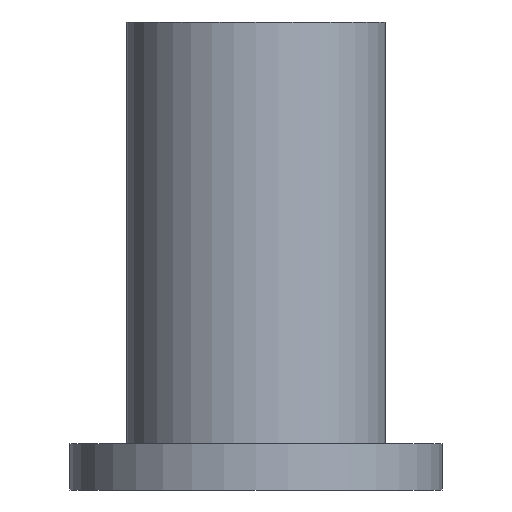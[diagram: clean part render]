
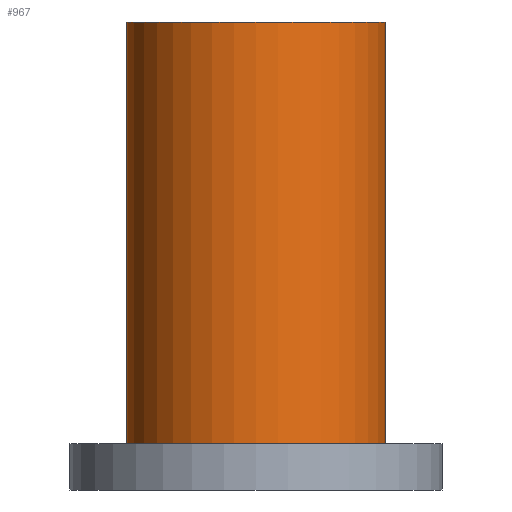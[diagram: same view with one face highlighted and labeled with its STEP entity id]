
A CAD part, front view. The second image highlights one B-rep face of the part: STEP entity #967.
In plain terms, the highlighted cylindrical face has radius 67.5 mm (diameter 135 mm), a partial arc.
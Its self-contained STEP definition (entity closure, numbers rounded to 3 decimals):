
#129=CARTESIAN_POINT('',(0.,0.,24.));
#130=DIRECTION('',(0.,0.,-1.));
#131=DIRECTION('',(1.,0.,0.));
#132=AXIS2_PLACEMENT_3D('',#129,#130,#131);
#297=DIRECTION('',(0.,0.,-1.));
#298=VECTOR('',#297,220.);
#299=CARTESIAN_POINT('',(-67.5,0.,244.));
#300=LINE('',#299,#298);
#301=DIRECTION('',(0.,0.,-1.));
#302=VECTOR('',#301,220.);
#303=CARTESIAN_POINT('',(67.5,0.,244.));
#304=LINE('',#303,#302);
#310=CARTESIAN_POINT('',(0.,0.,244.));
#311=DIRECTION('',(0.,0.,1.));
#312=DIRECTION('',(-1.,0.,0.));
#313=AXIS2_PLACEMENT_3D('',#310,#311,#312);
#589=CARTESIAN_POINT('',(67.5,0.,244.));
#590=CARTESIAN_POINT('',(67.5,0.,24.));
#591=VERTEX_POINT('',#589);
#592=VERTEX_POINT('',#590);
#593=CARTESIAN_POINT('',(-67.5,0.,244.));
#594=CARTESIAN_POINT('',(-67.5,0.,24.));
#595=VERTEX_POINT('',#593);
#596=VERTEX_POINT('',#594);
#953=CARTESIAN_POINT('',(0.,0.,244.));
#954=DIRECTION('',(0.,0.,-1.));
#955=DIRECTION('',(-1.,0.,0.));
#956=AXIS2_PLACEMENT_3D('',#953,#954,#955);
#957=CYLINDRICAL_SURFACE('',#956,67.5);
#958=ORIENTED_EDGE('',*,*,#694,.T.);
#960=ORIENTED_EDGE('',*,*,#959,.F.);
#962=ORIENTED_EDGE('',*,*,#961,.T.);
#964=ORIENTED_EDGE('',*,*,#963,.T.);
#965=EDGE_LOOP('',(#958,#960,#962,#964));
#966=FACE_OUTER_BOUND('',#965,.F.);
#967=ADVANCED_FACE('',(#966),#957,.T.);
#133=CIRCLE('',#132,67.5);
#314=CIRCLE('',#313,67.5);
#694=EDGE_CURVE('',#592,#596,#133,.T.);
#959=EDGE_CURVE('',#595,#596,#300,.T.);
#961=EDGE_CURVE('',#595,#591,#314,.T.);
#963=EDGE_CURVE('',#591,#592,#304,.T.);
